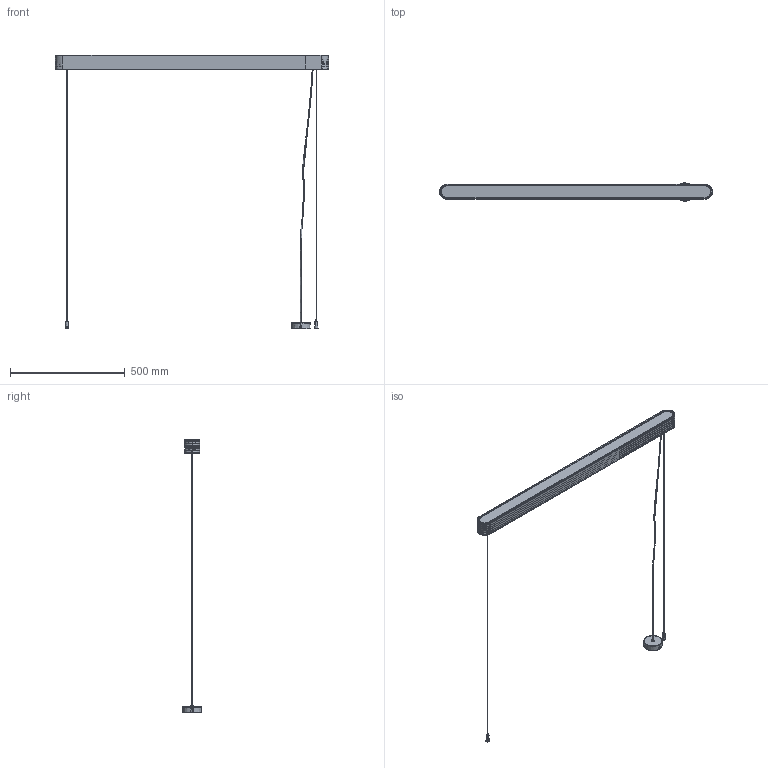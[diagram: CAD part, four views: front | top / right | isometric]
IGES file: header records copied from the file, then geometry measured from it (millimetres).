
Start section: SolidWorks IGES file using analytic representation for surfaces
Global section: file name: Z:\Modele 3D_WWW\_KOLEKCJE_WWW\SOFT-LED\SOFT-LED-120X6-9547-9543\SOFT-LED-120X6-9547-9543.IGS; native system: SolidWorks 2020; preprocessor: SolidWorks 2020; author: gabriela.tworek; date: 210512.125304; units: millimetre
Bounding box: 1191.75 x 83.45 x 1191.43 mm (x, y, z)
Surface area: 858147.8 mm2 (no closed solid volume)
Topology: 0 solids, 0 shells, 2405 faces, 25252 edges, 25246 vertices
Faces by surface type: bspline 1763, revolution 642
